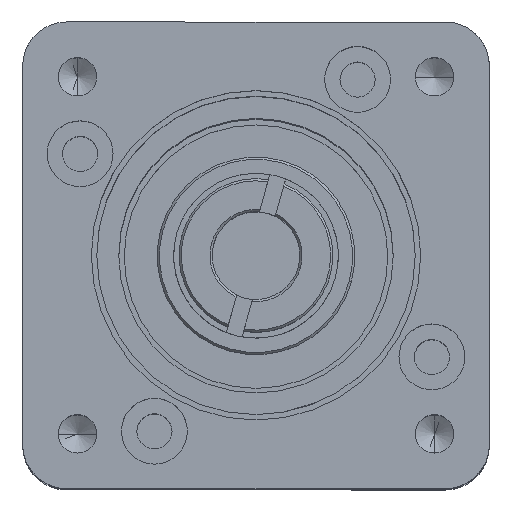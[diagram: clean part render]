
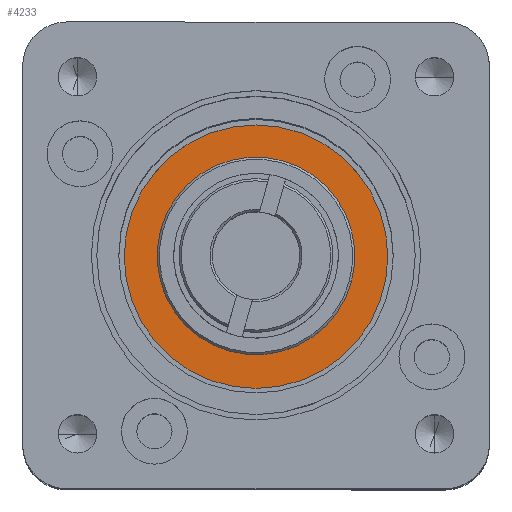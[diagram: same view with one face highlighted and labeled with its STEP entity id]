
A CAD part, top view. The second image highlights one B-rep face of the part: STEP entity #4233.
In plain terms, the highlighted planar face has unit normal (0, 0, 1).
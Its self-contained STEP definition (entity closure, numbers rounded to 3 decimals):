
#515 = EDGE_CURVE ( 'NONE', #3006, #6143, #2750, .T. ) ;
#722 = DIRECTION ( 'NONE',  ( 1., 0., 0. ) ) ;
#747 = PLANE ( 'NONE',  #4613 ) ;
#899 = AXIS2_PLACEMENT_3D ( 'NONE', #3969, #8067, #8020 ) ;
#1081 = CARTESIAN_POINT ( 'NONE',  ( -8., 0., 0.8 ) ) ;
#1127 = ORIENTED_EDGE ( 'NONE', *, *, #515, .T. ) ;
#1460 = EDGE_CURVE ( 'NONE', #6143, #3006, #5543, .T. ) ;
#1669 = EDGE_LOOP ( 'NONE', ( #1771, #1127 ) ) ;
#1679 = CARTESIAN_POINT ( 'NONE',  ( 12., 0., 0.8 ) ) ;
#1712 = CIRCLE ( 'NONE', #7968, 8. ) ;
#1758 = DIRECTION ( 'NONE',  ( -1., 0., 0. ) ) ;
#1771 = ORIENTED_EDGE ( 'NONE', *, *, #1460, .T. ) ;
#1791 = CARTESIAN_POINT ( 'NONE',  ( 0., 0., 0.8 ) ) ;
#2188 = VERTEX_POINT ( 'NONE', #6085 ) ;
#2301 = CARTESIAN_POINT ( 'NONE',  ( 0., 0., 0.8 ) ) ;
#2546 = EDGE_CURVE ( 'NONE', #2188, #4108, #5712, .T. ) ;
#2750 = CIRCLE ( 'NONE', #899, 12. ) ;
#2861 = ORIENTED_EDGE ( 'NONE', *, *, #7880, .T. ) ;
#3006 = VERTEX_POINT ( 'NONE', #1679 ) ;
#3293 = FACE_BOUND ( 'NONE', #8070, .T. ) ;
#3537 = DIRECTION ( 'NONE',  ( 0., 0., 1. ) ) ;
#3824 = CARTESIAN_POINT ( 'NONE',  ( -12., 0., 0.8 ) ) ;
#3969 = CARTESIAN_POINT ( 'NONE',  ( 0., 0., 0.8 ) ) ;
#4108 = VERTEX_POINT ( 'NONE', #1081 ) ;
#4233 = ADVANCED_FACE ( 'NONE', ( #7058, #3293 ), #747, .T. ) ;
#4613 = AXIS2_PLACEMENT_3D ( 'NONE', #5423, #4706, #722 ) ;
#4706 = DIRECTION ( 'NONE',  ( 0., 0., 1. ) ) ;
#4809 = DIRECTION ( 'NONE',  ( 0., 0., -1. ) ) ;
#4961 = DIRECTION ( 'NONE',  ( -1., 0., 0. ) ) ;
#5423 = CARTESIAN_POINT ( 'NONE',  ( 0., 8., 0.8 ) ) ;
#5492 = DIRECTION ( 'NONE',  ( -1., 0., 0. ) ) ;
#5543 = CIRCLE ( 'NONE', #5609, 12. ) ;
#5609 = AXIS2_PLACEMENT_3D ( 'NONE', #2301, #3537, #4961 ) ;
#5712 = CIRCLE ( 'NONE', #7295, 8. ) ;
#5922 = ORIENTED_EDGE ( 'NONE', *, *, #2546, .T. ) ;
#6085 = CARTESIAN_POINT ( 'NONE',  ( 8., 0., 0.8 ) ) ;
#6143 = VERTEX_POINT ( 'NONE', #3824 ) ;
#6250 = CARTESIAN_POINT ( 'NONE',  ( 0., 0., 0.8 ) ) ;
#7058 = FACE_OUTER_BOUND ( 'NONE', #1669, .T. ) ;
#7295 = AXIS2_PLACEMENT_3D ( 'NONE', #1791, #7728, #1758 ) ;
#7728 = DIRECTION ( 'NONE',  ( 0., 0., -1. ) ) ;
#7880 = EDGE_CURVE ( 'NONE', #4108, #2188, #1712, .T. ) ;
#7968 = AXIS2_PLACEMENT_3D ( 'NONE', #6250, #4809, #5492 ) ;
#8020 = DIRECTION ( 'NONE',  ( -1., 0., 0. ) ) ;
#8067 = DIRECTION ( 'NONE',  ( 0., 0., 1. ) ) ;
#8070 = EDGE_LOOP ( 'NONE', ( #2861, #5922 ) ) ;
